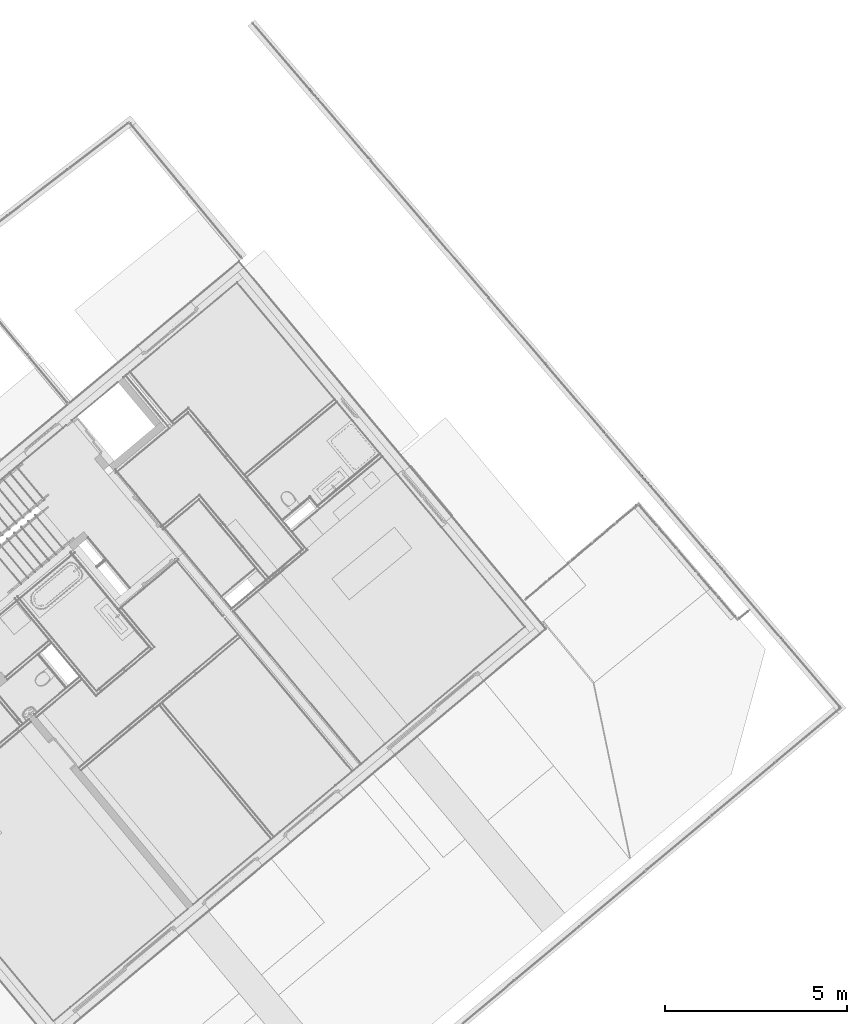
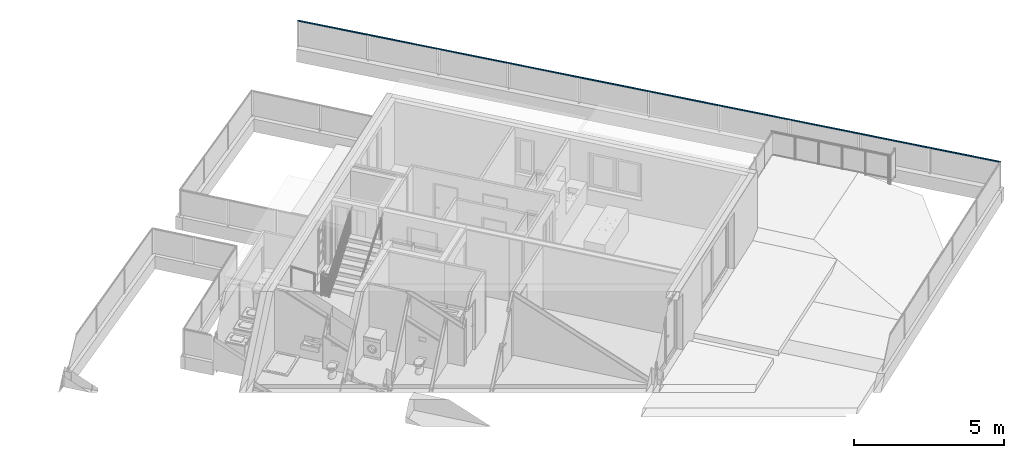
# One storey, part 47 of 67: 1 building element part, 1 element without a shape of its own.
"""IFC4 building model written with IfcOpenShell, lengths in metres."""

from ifc_helpers import new_model, entity, si_unit, converted_unit, derived_unit, direction, frame, origin_with_axes, place, context, subcontext, project, spatial, polygons, material, type_object, element, aggregate, save


model = new_model("IFC4")

# Units and contexts
model_context = context("Model", 3, precision=1e-05, world=origin_with_axes(), true_north=direction((0.0, 1.0)))
body_context = subcontext(model_context, "Body", "Model", "MODEL_VIEW")
ifc_project = project(units=[si_unit("LENGTHUNIT", "METRE"), si_unit("AREAUNIT", "SQUARE_METRE"), si_unit("VOLUMEUNIT", "CUBIC_METRE"), converted_unit("PLANEANGLEUNIT", "DEGREE", entity("IfcPlaneAngleMeasure", 0.0174532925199), si_unit("PLANEANGLEUNIT", "RADIAN"), dimensions=[0, 0, 0, 0, 0, 0, 0]), converted_unit("TIMEUNIT", "Year", entity("IfcTimeMeasure", 31556926.0), si_unit("TIMEUNIT", "SECOND"), dimensions=[0, 0, 1, 0, 0, 0, 0]), si_unit("MASSUNIT", "GRAM", prefix="KILO"), si_unit("THERMODYNAMICTEMPERATUREUNIT", "DEGREE_CELSIUS"), si_unit("LUMINOUSINTENSITYUNIT", "LUMEN"), si_unit("ENERGYUNIT", "JOULE", prefix="MEGA"), derived_unit("THERMALCONDUCTANCEUNIT", [(si_unit("POWERUNIT", "WATT"), 1), (si_unit("LENGTHUNIT", "METRE"), -1), (si_unit("THERMODYNAMICTEMPERATUREUNIT", "KELVIN"), -1)]), derived_unit("SPECIFICHEATCAPACITYUNIT", [(si_unit("ENERGYUNIT", "JOULE"), 1), (si_unit("MASSUNIT", "GRAM", prefix="KILO"), -1), (si_unit("THERMODYNAMICTEMPERATUREUNIT", "KELVIN"), -1)]), derived_unit("MASSDENSITYUNIT", [(si_unit("MASSUNIT", "GRAM", prefix="KILO"), 1), (si_unit("VOLUMEUNIT", "CUBIC_METRE"), -1)])], contexts=[model_context])

# Site, building, storey
site_placement = place(None, frame((-0.00153261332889, -0.00661245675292, 0.0), z_axis=(0.0, 0.0, 1.0), x_axis=(1.0, 0.0, 0.0)))
site = spatial("IfcSite", under=ifc_project, at=site_placement, Name="Site", CompositionType="ELEMENT")
building_placement = place(site_placement, origin_with_axes())
building = spatial("IfcBuilding", under=site, at=building_placement, Name="Building", CompositionType="ELEMENT")
storey_placement = place(building_placement, frame((0.0, 0.0, -0.22), z_axis=(0.0, 0.0, 1.0), x_axis=(1.0, 0.0, 0.0)))
storey = spatial("IfcBuildingStorey", under=building, at=storey_placement, Name="EG", CompositionType="ELEMENT", Elevation=-0.22)

# Railing, building element part
railing_type = type_object("IfcRailingType", Name="Geländerart", PredefinedType="NOTDEFINED")
railing_placement = place(storey_placement, frame((-12.1608341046, 23.557810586, 0.523948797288), z_axis=(0.0, 0.0, 1.0), x_axis=(1.0, 0.0, 0.0)))
railing = element("IfcRailing", 1, at=railing_placement, inside=storey, type_object=railing_type, Name="Geländer - 001", PredefinedType="NOTDEFINED")
ifc_material = material(Name="Aluminium")
building_element_part_placement = place(railing_placement, origin_with_axes())
building_element_part = element("IfcBuildingElementPart", 2, at=building_element_part_placement, material=ifc_material, Name="Aluminium", PredefinedType="NOTDEFINED", context=body_context, shape_type="Tessellation", body=[
    polygons([(33.6810736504, -5.45007498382, 1.07636363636), (33.6814073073, -5.45010254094, 1.07634109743), (17.464627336, 13.4233680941, 1.07634109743), (17.4644490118, 13.4232148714, 1.07636363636), (33.6810736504, -5.45007498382, 1.07818181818), (33.6809859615, -5.45006774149, 1.07820551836), (33.6763066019, -5.44968126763, 1.0792391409), (33.6715595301, -5.44928920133, 1.07983921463), (33.6667808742, -5.44889452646, 1.08000117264), (33.6666903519, -5.44888705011, 1.08), (33.6665998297, -5.44887957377, 1.08000117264), (33.6618211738, -5.4484848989, 1.07983921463), (33.657074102, -5.4480928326, 1.0792391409), (33.6523947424, -5.44770635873, 1.07820551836), (33.6523070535, -5.4476991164, 1.07818181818), (33.6523070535, -5.4476991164, 1.07636363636), (33.6519733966, -5.44767155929, 1.07634109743), (33.6507378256, -5.44756951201, 1.0761115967), (33.6495588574, -5.44747213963, 1.07565956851), (33.6484723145, -5.44738240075, 1.07499874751), (33.6475112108, -5.44730302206, 1.0741492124), (33.6467047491, -5.44723641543, 1.07313677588), (33.6460774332, -5.44718460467, 1.07199220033), (33.6456483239, -5.44714916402, 1.07075026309), (33.6454304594, -5.44713117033, 1.06944869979), (33.6454304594, -5.44713117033, 1.06812705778), (33.6456483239, -5.44714916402, 1.06682549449), (33.6460774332, -5.44718460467, 1.06558355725), (33.6467047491, -5.44723641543, 1.06443898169), (33.6475112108, -5.44730302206, 1.06342654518), (33.6484723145, -5.44738240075, 1.06257701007), (33.6495588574, -5.44747213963, 1.06191618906), (33.6507378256, -5.44756951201, 1.06146416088), (33.6519733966, -5.44767155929, 1.06123466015), (33.6523070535, -5.4476991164, 1.06121212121), (33.6523070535, -5.4476991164, 1.05818181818), (33.6525326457, -5.44771774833, 1.05810011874), (33.6535835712, -5.44780454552, 1.05758389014), (33.6545334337, -5.44788299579, 1.05688326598), (33.6553533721, -5.44795071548, 1.05601953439), (33.656018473, -5.44800564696, 1.05501893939), (33.6565085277, -5.44804612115, 1.05391188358), (33.656808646, -5.44807090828, 1.05273200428), (33.656909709, -5.44807925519, 1.05151515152), (33.656808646, -5.44807090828, 1.05029829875), (33.6565085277, -5.44804612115, 1.04911841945), (33.656018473, -5.44800564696, 1.04801136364), (33.6553533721, -5.44795071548, 1.04701076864), (33.6545334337, -5.44788299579, 1.04614703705), (33.6535835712, -5.44780454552, 1.04544641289), (33.6525326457, -5.44771774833, 1.04493018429), (33.6523070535, -5.4476991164, 1.04484848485), (33.6523070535, -5.4476991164, 1.04), (33.6810736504, -5.45007498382, 1.04), (33.6810736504, -5.45007498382, 1.04484848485), (33.6808480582, -5.4500563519, 1.04493018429), (33.6797971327, -5.44996955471, 1.04544641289), (33.6788472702, -5.44989110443, 1.04614703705), (33.6780273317, -5.44982338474, 1.04701076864), (33.6773622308, -5.44976845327, 1.04801136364), (33.6768721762, -5.44972797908, 1.04911841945), (33.6765720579, -5.44970319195, 1.05029829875), (33.6764709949, -5.44969484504, 1.05151515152), (33.6765720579, -5.44970319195, 1.05273200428), (33.6768721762, -5.44972797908, 1.05391188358), (33.6773622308, -5.44976845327, 1.05501893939), (33.6780273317, -5.44982338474, 1.05601953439), (33.6788472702, -5.44989110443, 1.05688326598), (33.6797971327, -5.44996955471, 1.05758389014), (33.6808480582, -5.4500563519, 1.05810011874), (33.6810736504, -5.45007498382, 1.05818181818), (33.6810736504, -5.45007498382, 1.06121212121), (33.6814073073, -5.45010254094, 1.06123466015), (33.6826428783, -5.45020458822, 1.06146416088), (33.6838218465, -5.4503019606, 1.06191618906), (33.6849083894, -5.45039169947, 1.06257701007), (33.6858694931, -5.45047107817, 1.06342654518), (33.6866759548, -5.4505376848, 1.06443898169), (33.6873032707, -5.45058949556, 1.06558355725), (33.68773238, -5.45062493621, 1.06682549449), (33.6879502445, -5.4506429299, 1.06812705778), (33.6879502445, -5.4506429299, 1.06944869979), (33.68773238, -5.45062493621, 1.07075026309), (33.6873032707, -5.45058949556, 1.07199220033), (33.6866759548, -5.4505376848, 1.07313677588), (33.6858694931, -5.45047107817, 1.0741492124), (33.6849083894, -5.45039169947, 1.07499874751), (33.6838218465, -5.4503019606, 1.07565956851), (33.6826428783, -5.45020458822, 1.0761115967), (17.4652876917, 13.423935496, 1.0761115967), (17.4659177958, 13.4244769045, 1.07565956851), (17.4664985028, 13.4249758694, 1.07499874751), (17.4670121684, 13.4254172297, 1.0741492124), (17.4674431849, 13.425787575, 1.07313677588), (17.4677784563, 13.4260756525, 1.07199220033), (17.4680077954, 13.4262727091, 1.07075026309), (17.468124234, 13.4263727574, 1.06944869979), (17.468124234, 13.4263727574, 1.06812705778), (17.4680077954, 13.4262727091, 1.06682549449), (17.4677784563, 13.4260756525, 1.06558355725), (17.4674431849, 13.425787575, 1.06443898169), (17.4670121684, 13.4254172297, 1.06342654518), (17.4664985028, 13.4249758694, 1.06257701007), (17.4659177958, 13.4244769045, 1.06191618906), (17.4652876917, 13.423935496, 1.06146416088), (17.464627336, 13.4233680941, 1.06123466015), (17.4644490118, 13.4232148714, 1.06121212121), (17.4644490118, 13.4232148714, 1.05818181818), (17.4643284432, 13.4231112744, 1.05810011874), (17.463766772, 13.4226286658, 1.05758389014), (17.4632591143, 13.4221924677, 1.05688326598), (17.4628208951, 13.4218159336, 1.05601953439), (17.4624654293, 13.4215105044, 1.05501893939), (17.4622035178, 13.4212854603, 1.05391188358), (17.4620431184, 13.4211476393, 1.05273200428), (17.4619891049, 13.4211012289, 1.05151515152), (17.4620431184, 13.4211476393, 1.05029829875), (17.4622035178, 13.4212854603, 1.04911841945), (17.4624654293, 13.4215105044, 1.04801136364), (17.4628208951, 13.4218159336, 1.04701076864), (17.4632591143, 13.4221924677, 1.04614703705), (17.463766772, 13.4226286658, 1.04544641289), (17.4643284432, 13.4231112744, 1.04493018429), (17.4644490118, 13.4232148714, 1.04484848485), (17.4644490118, 13.4232148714, 1.04), (17.4490745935, 13.4100046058, 1.04), (17.4490745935, 13.4100046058, 1.04484848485), (17.4491951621, 13.4101082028, 1.04493018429), (17.4497568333, 13.4105908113, 1.04544641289), (17.4502644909, 13.4110270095, 1.04614703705), (17.4507027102, 13.4114035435, 1.04701076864), (17.4510581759, 13.4117089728, 1.04801136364), (17.4513200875, 13.4119340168, 1.04911841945), (17.4514804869, 13.4120718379, 1.05029829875), (17.4515345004, 13.4121182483, 1.05151515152), (17.4514804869, 13.4120718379, 1.05273200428), (17.4513200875, 13.4119340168, 1.05391188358), (17.4510581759, 13.4117089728, 1.05501893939), (17.4507027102, 13.4114035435, 1.05601953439), (17.4502644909, 13.4110270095, 1.05688326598), (17.4497568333, 13.4105908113, 1.05758389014), (17.4491951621, 13.4101082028, 1.05810011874), (17.4490745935, 13.4100046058, 1.05818181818), (17.4490745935, 13.4100046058, 1.06121212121), (17.4488962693, 13.4098513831, 1.06123466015), (17.4482359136, 13.4092839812, 1.06146416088), (17.4476058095, 13.4087425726, 1.06191618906), (17.4470251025, 13.4082436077, 1.06257701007), (17.4465114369, 13.4078022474, 1.06342654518), (17.4460804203, 13.4074319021, 1.06443898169), (17.445745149, 13.4071438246, 1.06558355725), (17.4455158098, 13.406946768, 1.06682549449), (17.4453993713, 13.4068467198, 1.06812705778), (17.4453993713, 13.4068467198, 1.06944869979), (17.4455158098, 13.406946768, 1.07075026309), (17.445745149, 13.4071438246, 1.07199220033), (17.4460804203, 13.4074319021, 1.07313677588), (17.4465114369, 13.4078022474, 1.0741492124), (17.4470251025, 13.4082436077, 1.07499874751), (17.4476058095, 13.4087425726, 1.07565956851), (17.4482359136, 13.4092839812, 1.0761115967), (17.4488962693, 13.4098513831, 1.07634109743), (17.4490745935, 13.4100046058, 1.07636363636), (17.4490745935, 13.4100046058, 1.07818181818), (17.4491214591, 13.4100448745, 1.07820551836), (17.4516223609, 13.4121937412, 1.0792391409), (17.4541594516, 13.4143737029, 1.07983921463), (17.4567134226, 13.4165681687, 1.08000117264), (17.4567618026, 13.4166097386, 1.08), (17.4568101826, 13.4166513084, 1.08000117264), (17.4593641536, 13.4188457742, 1.07983921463), (17.4619012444, 13.4210257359, 1.0792391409), (17.4644021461, 13.4231746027, 1.07820551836), (17.4644490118, 13.4232148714, 1.07818181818)], [[[1, 2, 3, 4]], [[1, 5, 6, 7, 8, 9, 10, 11, 12, 13, 14, 15, 16, 17, 18, 19, 20, 21, 22, 23, 24, 25, 26, 27, 28, 29, 30, 31, 32, 33, 34, 35, 36, 37, 38, 39, 40, 41, 42, 43, 44, 45, 46, 47, 48, 49, 50, 51, 52, 53, 54, 55, 56, 57, 58, 59, 60, 61, 62, 63, 64, 65, 66, 67, 68, 69, 70, 71, 72, 73, 74, 75, 76, 77, 78, 79, 80, 81, 82, 83, 84, 85, 86, 87, 88, 89, 2]], [[2, 89, 90, 3]], [[4, 3, 90, 91, 92, 93, 94, 95, 96, 97, 98, 99, 100, 101, 102, 103, 104, 105, 106, 107, 108, 109, 110, 111, 112, 113, 114, 115, 116, 117, 118, 119, 120, 121, 122, 123, 124, 125, 126, 127, 128, 129, 130, 131, 132, 133, 134, 135, 136, 137, 138, 139, 140, 141, 142, 143, 144, 145, 146, 147, 148, 149, 150, 151, 152, 153, 154, 155, 156, 157, 158, 159, 160, 161, 162, 163, 164, 165, 166, 167, 168, 169, 170, 171, 172, 173, 174]], [[5, 1, 4, 174]], [[6, 5, 174, 173]], [[7, 6, 173, 172]], [[8, 7, 172, 171]], [[9, 8, 171, 170]], [[10, 9, 170, 169]], [[11, 10, 169, 168]], [[12, 11, 168, 167]], [[13, 12, 167, 166]], [[14, 13, 166, 165]], [[15, 14, 165, 164]], [[16, 15, 164, 163]], [[17, 16, 163, 162]], [[18, 17, 162, 161]], [[19, 18, 161, 160]], [[20, 19, 160, 159]], [[21, 20, 159, 158]], [[22, 21, 158, 157]], [[23, 22, 157, 156]], [[24, 23, 156, 155]], [[25, 24, 155, 154]], [[26, 25, 154, 153]], [[27, 26, 153, 152]], [[28, 27, 152, 151]], [[29, 28, 151, 150]], [[30, 29, 150, 149]], [[31, 30, 149, 148]], [[32, 31, 148, 147]], [[33, 32, 147, 146]], [[34, 33, 146, 145]], [[35, 34, 145, 144]], [[36, 35, 144, 143]], [[37, 36, 143, 142]], [[38, 37, 142, 141]], [[39, 38, 141, 140]], [[40, 39, 140, 139]], [[41, 40, 139, 138]], [[42, 41, 138, 137]], [[43, 42, 137, 136]], [[44, 43, 136, 135]], [[45, 44, 135, 134]], [[46, 45, 134, 133]], [[47, 46, 133, 132]], [[48, 47, 132, 131]], [[49, 48, 131, 130]], [[50, 49, 130, 129]], [[51, 50, 129, 128]], [[52, 51, 128, 127]], [[53, 52, 127, 126]], [[54, 53, 126, 125]], [[55, 54, 125, 124]], [[56, 55, 124, 123]], [[57, 56, 123, 122]], [[58, 57, 122, 121]], [[59, 58, 121, 120]], [[60, 59, 120, 119]], [[61, 60, 119, 118]], [[62, 61, 118, 117]], [[63, 62, 117, 116]], [[64, 63, 116, 115]], [[65, 64, 115, 114]], [[66, 65, 114, 113]], [[67, 66, 113, 112]], [[68, 67, 112, 111]], [[69, 68, 111, 110]], [[70, 69, 110, 109]], [[71, 70, 109, 108]], [[72, 71, 108, 107]], [[73, 72, 107, 106]], [[74, 73, 106, 105]], [[75, 74, 105, 104]], [[76, 75, 104, 103]], [[77, 76, 103, 102]], [[78, 77, 102, 101]], [[79, 78, 101, 100]], [[80, 79, 100, 99]], [[81, 80, 99, 98]], [[82, 81, 98, 97]], [[83, 82, 97, 96]], [[84, 83, 96, 95]], [[85, 84, 95, 94]], [[86, 85, 94, 93]], [[87, 86, 93, 92]], [[88, 87, 92, 91]], [[89, 88, 91, 90]]], closed=True),
])
aggregate(railing, [building_element_part])

save(model, "model.ifc")
